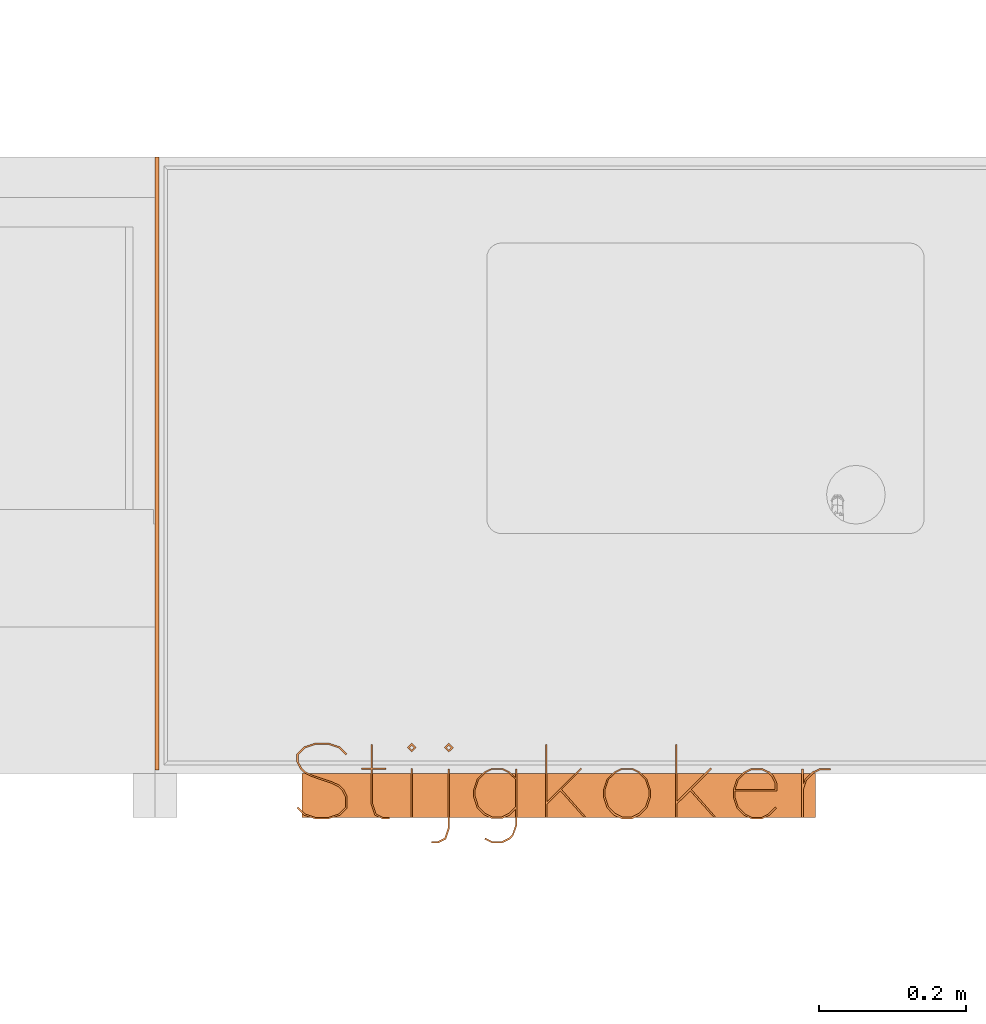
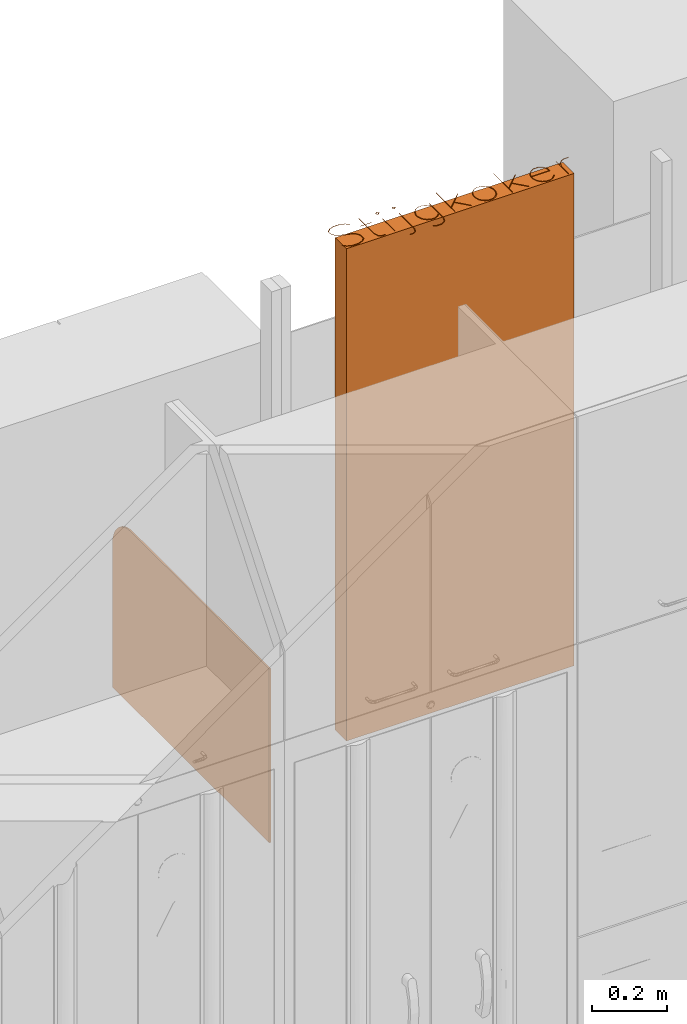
# One storey, part 8 of 32: 2 proxies.
"""IFC2X3 building model written with IfcOpenShell, lengths in metres."""

from ifc_helpers import new_model, entity, si_unit, converted_unit, derived_unit, direction, frame, frame_2d, origin, place, context, subcontext, project, spatial, polyline, circle_curve, parameter, trimmed, segment, composite_curve, outline, extrude, face_set, surface_model, source, transform, mapped, material, type_object, type_shapes, element, save


model = new_model("IFC2X3")

# Units and contexts
model_context = context("Model", 3, precision=1e-05, world=origin(), true_north=direction((6.12303176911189e-17, 1.0)))
body_context = subcontext(model_context, "Body", "Model", "MODEL_VIEW")
ifc_project = project(units=[si_unit("LENGTHUNIT", "METRE"), si_unit("AREAUNIT", "SQUARE_METRE"), si_unit("VOLUMEUNIT", "CUBIC_METRE"), converted_unit("PLANEANGLEUNIT", "DEGREE", entity("IfcRatioMeasure", 0.0174532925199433), si_unit("PLANEANGLEUNIT", "RADIAN"), dimensions=[0, 0, 0, 0, 0, 0, 0]), si_unit("MASSUNIT", "GRAM", prefix="KILO"), derived_unit("MASSDENSITYUNIT", [(si_unit("MASSUNIT", "GRAM", prefix="KILO"), 1), (si_unit("LENGTHUNIT", "METRE"), -3)]), derived_unit("MOMENTOFINERTIAUNIT", [(si_unit("LENGTHUNIT", "METRE"), 4)]), si_unit("TIMEUNIT", "SECOND"), si_unit("FREQUENCYUNIT", "HERTZ"), si_unit("THERMODYNAMICTEMPERATUREUNIT", "DEGREE_CELSIUS"), derived_unit("THERMALTRANSMITTANCEUNIT", [(si_unit("MASSUNIT", "GRAM", prefix="KILO"), 1), (si_unit("THERMODYNAMICTEMPERATUREUNIT", "KELVIN"), -1), (si_unit("TIMEUNIT", "SECOND"), -3)]), derived_unit("VOLUMETRICFLOWRATEUNIT", [(si_unit("LENGTHUNIT", "METRE"), 3), (si_unit("TIMEUNIT", "SECOND"), -1)]), si_unit("ELECTRICCURRENTUNIT", "AMPERE"), si_unit("ELECTRICVOLTAGEUNIT", "VOLT"), si_unit("POWERUNIT", "WATT"), si_unit("FORCEUNIT", "NEWTON", prefix="KILO"), si_unit("ILLUMINANCEUNIT", "LUX"), si_unit("LUMINOUSFLUXUNIT", "LUMEN"), si_unit("LUMINOUSINTENSITYUNIT", "CANDELA"), derived_unit("USERDEFINED", [(si_unit("MASSUNIT", "GRAM", prefix="KILO"), -1), (si_unit("LENGTHUNIT", "METRE"), -2), (si_unit("TIMEUNIT", "SECOND"), 3), (si_unit("LUMINOUSFLUXUNIT", "LUMEN"), 1)]), derived_unit("LINEARVELOCITYUNIT", [(si_unit("LENGTHUNIT", "METRE"), 1), (si_unit("TIMEUNIT", "SECOND"), -1)]), si_unit("PRESSUREUNIT", "PASCAL"), derived_unit("USERDEFINED", [(si_unit("LENGTHUNIT", "METRE"), -2), (si_unit("MASSUNIT", "GRAM", prefix="KILO"), 1), (si_unit("TIMEUNIT", "SECOND"), -2)]), derived_unit("LINEARFORCEUNIT", [(si_unit("MASSUNIT", "GRAM", prefix="KILO"), 1), (si_unit("LENGTHUNIT", "METRE"), 1), (si_unit("TIMEUNIT", "SECOND"), -2), (si_unit("LENGTHUNIT", "METRE"), -1)]), derived_unit("PLANARFORCEUNIT", [(si_unit("MASSUNIT", "GRAM", prefix="KILO"), 1), (si_unit("LENGTHUNIT", "METRE"), 1), (si_unit("TIMEUNIT", "SECOND"), -2), (si_unit("LENGTHUNIT", "METRE"), -2)])], contexts=[model_context])

# Site, building, storey
site_placement = place(None, origin())
site = spatial("IfcSite", under=ifc_project, at=site_placement, Name="Default", CompositionType="ELEMENT")
building_placement = place(site_placement, origin())
building = spatial("IfcBuilding", under=site, at=building_placement, CompositionType="ELEMENT")
storey_placement = place(building_placement, origin())
storey = spatial("IfcBuildingStorey", under=building, at=storey_placement, Name="00 EG", CompositionType="ELEMENT", Elevation=0.0)

# Proxies
ifc_material_1 = material(Name="dh_Glas")
building_element_proxy_type_1 = type_object("IfcBuildingElementProxyType", Name="dh_Spritzschutz:dh_Spritzschutz 90", PredefinedType="NOTDEFINED", material=ifc_material_1)
shared_shape_1 = source(origin(), body_context, "Body", "SweptSolid", [
    extrude(outline(composite_curve([segment(polyline([(-0.354000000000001, -0.318999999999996), (0.480999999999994, -0.318999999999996)]), True, "CONTINUOUS"), segment(polyline([(0.480999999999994, -0.318999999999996), (0.480999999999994, 0.246000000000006)]), True, "CONTINUOUS"), segment(polyline([(0.480999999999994, 0.246000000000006), (-0.253999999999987, 0.245999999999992)]), True, "CONTINUOUS"), segment(trimmed(circle_curve(frame_2d((-0.253999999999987, 0.145999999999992), x_axis=(1.0, 0.0)), 0.1), [parameter(90.0000000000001)], [parameter(180.0)], True, "PARAMETER"), True, "CONTINUOUS"), segment(polyline([(-0.354000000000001, 0.145999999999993), (-0.354000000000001, -0.318999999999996)]), True, "CONTINUOUS")], self_intersect=False)), frame((0.0, -0.485999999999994, 1.219), z_axis=(1.0, 0.0, 0.0), x_axis=(0.0, 1.0, 0.0)), (0.0, 0.0, 1.0), 0.00500000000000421),
])
type_shapes(building_element_proxy_type_1, [shared_shape_1])
proxy_1_placement = place(storey_placement, frame((15.2549999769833, 10.2099999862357, 0.0), z_axis=(0.0, 0.0, 1.0), x_axis=(-1.0, 0.0, 0.0)))
element("IfcBuildingElementProxy", 1, at=proxy_1_placement, inside=storey, type_object=building_element_proxy_type_1, material=ifc_material_1, Name="dh_Spritzschutz:dh_Spritzschutz 90", ObjectType="dh_Spritzschutz:dh_Spritzschutz 90", context=body_context, shape_type="MappedRepresentation", body=[
    mapped(shared_shape_1, transform((0.0, 0.0, 0.0), scale=1.0)),
])
ifc_material_2 = material(Name="dh_Stellfläche")
building_element_proxy_type_2 = type_object("IfcBuildingElementProxyType", Name="dh_Gerät_Stellfläche Bestand:Nutzergerät", PredefinedType="NOTDEFINED", material=ifc_material_2)
shared_shape_2 = source(origin(), body_context, "Body", "SurfaceModel", [
    surface_model("IfcFaceBasedSurfaceModel", [(-0.355113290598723, -0.0453817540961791, 1.605), (-0.356700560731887, -0.0470458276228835, 1.605), (-0.346946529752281, -0.0567998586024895, 1.605), (-0.332277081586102, -0.0616384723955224, 1.605), (-0.31294822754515, -0.0616384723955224, 1.605), (-0.298278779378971, -0.0567998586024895, 1.605), (-0.288166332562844, -0.0466618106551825, 1.605), (-0.288166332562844, -0.0314547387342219, 1.605), (-0.293081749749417, -0.0214446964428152, 1.605), (-0.298073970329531, -0.0163500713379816, 1.605), (-0.307904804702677, -0.0115114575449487, 1.605), (-0.336450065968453, -0.00188543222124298, 1.605), (-0.345692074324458, 0.00295318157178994, 1.605), (-0.35019787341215, 0.00745898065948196, 1.605), (-0.354857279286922, 0.0166497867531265, 1.605), (-0.354857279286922, 0.0255845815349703, 1.605), (-0.345820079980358, 0.0347241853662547, 1.605), (-0.331944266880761, 0.0393579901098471, 1.605), (-0.313204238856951, 0.0393579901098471, 1.605), (-0.299328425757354, 0.0347241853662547, 1.605), (-0.290112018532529, 0.0252005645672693, 1.605), (-0.288447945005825, 0.0268646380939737, 1.605), (-0.298278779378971, 0.0366186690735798, 1.605), (-0.31294822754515, 0.041585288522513, 1.605), (-0.332277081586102, 0.041585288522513, 1.605), (-0.346946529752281, 0.0366186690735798, 1.605), (-0.356982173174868, 0.0264550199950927, 1.605), (-0.356982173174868, 0.016112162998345, 1.605), (-0.352117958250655, 0.00610212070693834, 1.605), (-0.347074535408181, 0.00100749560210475, 1.605), (-0.337243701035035, -0.00383111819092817, 1.605), (-0.308698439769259, -0.0134571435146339, 1.605), (-0.299456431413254, -0.0182957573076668, 1.605), (-0.294950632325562, -0.0228015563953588, 1.605), (-0.29036802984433, -0.0320691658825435, 1.605), (-0.29036802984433, -0.0457657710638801, 1.605), (-0.299328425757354, -0.0549053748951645, 1.605), (-0.313204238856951, -0.0595647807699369, 1.605), (-0.331944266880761, -0.0595647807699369, 1.605), (-0.345820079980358, -0.0549053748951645, 1.605), (-0.230691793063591, -0.0616384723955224, 1.605), (-0.230691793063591, -0.0595647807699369, 1.605), (-0.239908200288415, -0.0595647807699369, 1.605), (-0.248740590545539, -0.055084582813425, 1.605), (-0.253399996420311, -0.0413879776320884, 1.605), (-0.253399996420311, 0.00533408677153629, 1.605), (-0.235402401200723, 0.00533408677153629, 1.605), (-0.235402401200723, 0.00745898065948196, 1.605), (-0.253399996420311, 0.00745898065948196, 1.605), (-0.253399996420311, 0.0399468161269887, 1.605), (-0.255576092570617, 0.0399468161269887, 1.605), (-0.255576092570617, 0.00745898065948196, 1.605), (-0.268735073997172, 0.00745898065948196, 1.605), (-0.268735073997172, 0.00533408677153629, 1.605), (-0.255576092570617, 0.00533408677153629, 1.605), (-0.255576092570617, -0.0416439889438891, 1.605), (-0.250660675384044, -0.0566974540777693, 1.605), (-0.240445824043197, -0.0616384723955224, 1.605), (-0.201327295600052, -0.0599999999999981, 1.605), (-0.199202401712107, -0.0599999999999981, 1.605), (-0.199202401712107, 0.00666534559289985, 1.605), (-0.201327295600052, 0.00666534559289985, 1.605), (-0.173294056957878, -0.0922318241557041, 1.605), (-0.173294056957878, -0.0944079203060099, 1.605), (-0.163744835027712, -0.0944079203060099, 1.605), (-0.153581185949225, -0.0893644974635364, 1.605), (-0.148665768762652, -0.0744390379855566, 1.605), (-0.148665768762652, 0.00651173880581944, 1.605), (-0.150867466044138, 0.00651173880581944, 1.605), (-0.150867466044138, -0.0741574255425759, 1.605), (-0.15550127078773, -0.087700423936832, 1.605), (-0.164333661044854, -0.0922318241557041, 1.605), (-0.100049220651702, -0.0875980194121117, 1.605), (-0.101175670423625, -0.0895181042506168, 1.605), (-0.0913448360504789, -0.0944079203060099, 1.605), (-0.0765473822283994, -0.0944079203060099, 1.605), (-0.066639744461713, -0.0895181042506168, 1.605), (-0.0615963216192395, -0.0843466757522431, 1.605), (-0.0566809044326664, -0.069728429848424, 1.605), (-0.0566809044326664, 0.00615332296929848, 1.605), (-0.0588826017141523, 0.00615332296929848, 1.605), (-0.0588826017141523, -0.00552079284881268, 1.605), (-0.066639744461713, 0.0023387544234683, 1.605), (-0.0765473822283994, 0.00717736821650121, 1.605), (-0.0913448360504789, 0.00717736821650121, 1.605), (-0.101303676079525, 0.0023387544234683, 1.605), (-0.111057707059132, -0.00756888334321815, 1.605), (-0.115973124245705, -0.0221871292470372, 1.605), (-0.115973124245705, -0.0319923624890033, 1.605), (-0.111057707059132, -0.0465850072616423, 1.605), (-0.101303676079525, -0.0564926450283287, 1.605), (-0.0913448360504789, -0.0612544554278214, 1.605), (-0.0765473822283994, -0.0612544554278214, 1.605), (-0.066639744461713, -0.0564926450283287, 1.605), (-0.0588826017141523, -0.0485818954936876, 1.605), (-0.0588826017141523, -0.0694724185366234, 1.605), (-0.0634652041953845, -0.0832970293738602, 1.605), (-0.0679710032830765, -0.0875980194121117, 1.605), (-0.0770594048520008, -0.0922318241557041, 1.605), (-0.0908072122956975, -0.0922318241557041, 1.605), (-0.0588826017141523, -0.0452537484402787, 1.605), (-0.0679710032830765, -0.0542909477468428, 1.605), (-0.0770594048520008, -0.0588735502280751, 1.605), (-0.0908072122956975, -0.0588735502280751, 1.605), (-0.0999212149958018, -0.0542909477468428, 1.605), (-0.109214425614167, -0.0451257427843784, 1.605), (-0.113797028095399, -0.0312499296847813, 1.605), (-0.113797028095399, -0.0220079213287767, 1.605), (-0.109214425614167, -0.00813210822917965, 1.605), (-0.0999212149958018, 0.000956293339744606, 1.605), (-0.0908072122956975, 0.00561569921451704, 1.605), (-0.0770594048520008, 0.00561569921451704, 1.605), (-0.0679710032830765, 0.000956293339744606, 1.605), (-0.0588826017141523, -0.00800410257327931, 1.605), (-0.0178183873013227, -0.0599999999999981, 1.605), (-0.0156934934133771, -0.0599999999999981, 1.605), (-0.0156934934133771, -0.0413367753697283, 1.605), (0.00230410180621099, -0.0235439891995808, 1.605), (0.0347919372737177, -0.0599999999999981, 1.605), (0.0364560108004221, -0.0587455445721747, 1.605), (0.0037633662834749, -0.0214958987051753, 1.605), (0.0316685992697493, 0.00625572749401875, 1.605), (0.0300813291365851, 0.00784299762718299, 1.605), (-0.0156934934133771, -0.0379574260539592, 1.605), (-0.0156934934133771, 0.0399468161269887, 1.605), (-0.0178183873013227, 0.0399468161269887, 1.605), (0.120146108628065, -0.0469178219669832, 1.605), (0.125061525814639, -0.0322227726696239, 1.605), (0.125061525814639, -0.0223663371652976, 1.605), (0.120146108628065, -0.00767128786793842, 1.605), (0.110315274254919, 0.00231315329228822, 1.605), (0.100407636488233, 0.00717736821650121, 1.605), (0.0856101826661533, 0.00717736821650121, 1.605), (0.0756513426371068, 0.00231315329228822, 1.605), (0.0658973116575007, -0.00767128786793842, 1.605), (0.0609818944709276, -0.0223663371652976, 1.605), (0.0609818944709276, -0.0322227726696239, 1.605), (0.0658973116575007, -0.0469178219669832, 1.605), (0.0756513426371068, -0.0568510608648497, 1.605), (0.0856101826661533, -0.0616384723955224, 1.605), (0.100407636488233, -0.0616384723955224, 1.605), (0.110315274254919, -0.0568510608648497, 1.605), (0.11820042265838, -0.0451257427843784, 1.605), (0.108984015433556, -0.0542909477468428, 1.605), (0.0998956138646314, -0.0588735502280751, 1.605), (0.0861478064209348, -0.0588735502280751, 1.605), (0.0770338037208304, -0.0542909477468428, 1.605), (0.0677405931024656, -0.0451257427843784, 1.605), (0.0631579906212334, -0.0312499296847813, 1.605), (0.0631579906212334, -0.0220079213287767, 1.605), (0.0677405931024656, -0.00813210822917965, 1.605), (0.0770338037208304, 0.000956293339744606, 1.605), (0.0861478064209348, 0.00561569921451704, 1.605), (0.0998956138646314, 0.00561569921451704, 1.605), (0.108984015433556, 0.000956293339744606, 1.605), (0.11820042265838, -0.00813210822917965, 1.605), (0.122859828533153, -0.0220079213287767, 1.605), (0.122859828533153, -0.0312499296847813, 1.605), (0.15913663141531, -0.0599999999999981, 1.605), (0.161261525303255, -0.0599999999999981, 1.605), (0.161261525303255, -0.0413367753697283, 1.605), (0.179259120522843, -0.0235439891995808, 1.605), (0.21174695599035, -0.0599999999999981, 1.605), (0.213411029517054, -0.0587455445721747, 1.605), (0.180718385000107, -0.0214958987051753, 1.605), (0.208623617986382, 0.00625572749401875, 1.605), (0.207036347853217, 0.00784299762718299, 1.605), (0.161261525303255, -0.0379574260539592, 1.605), (0.161261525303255, 0.0399468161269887, 1.605), (0.15913663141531, 0.0399468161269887, 1.605), (0.296973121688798, -0.0471994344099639, 1.605), (0.295309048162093, -0.0455353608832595, 1.605), (0.285939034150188, -0.0549821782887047, 1.605), (0.276850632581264, -0.0595647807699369, 1.605), (0.263102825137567, -0.0595647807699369, 1.605), (0.253988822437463, -0.0549821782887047, 1.605), (0.244695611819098, -0.0457913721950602, 1.605), (0.240113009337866, -0.0318899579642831, 1.605), (0.240113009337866, -0.0236463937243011, 1.605), (0.297229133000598, -0.0236463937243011, 1.605), (0.297229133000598, -0.0127147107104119, 1.605), (0.292313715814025, -0.00273026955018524, 1.605), (0.287270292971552, 0.00231315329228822, 1.605), (0.277362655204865, 0.00717736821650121, 1.605), (0.262565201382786, 0.00717736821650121, 1.605), (0.252606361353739, 0.00231315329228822, 1.605), (0.242852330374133, -0.00767128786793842, 1.605), (0.23793691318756, -0.0223663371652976, 1.605), (0.23793691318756, -0.0322227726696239, 1.605), (0.242852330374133, -0.0469178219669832, 1.605), (0.252606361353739, -0.0568510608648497, 1.605), (0.262565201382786, -0.0616384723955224, 1.605), (0.277362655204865, -0.0616384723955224, 1.605), (0.287270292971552, -0.0568510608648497, 1.605), (0.240522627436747, -0.0214446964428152, 1.605), (0.244695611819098, -0.00874653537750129, 1.605), (0.253988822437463, 0.000341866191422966, 1.605), (0.263102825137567, 0.0050012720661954, 1.605), (0.276850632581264, 0.0050012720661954, 1.605), (0.285939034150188, 0.000341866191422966, 1.605), (0.29044483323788, -0.00416393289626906, 1.605), (0.295027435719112, -0.0132779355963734, 1.605), (0.295027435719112, -0.0214446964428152, 1.605), (0.331176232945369, -0.0599999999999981, 1.605), (0.333301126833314, -0.0599999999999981, 1.605), (0.333301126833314, -0.0223407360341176, 1.605), (0.337960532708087, -0.00856732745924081, 1.605), (0.347202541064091, 0.000469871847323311, 1.605), (0.356342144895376, 0.00507807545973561, 1.605), (0.370371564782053, 0.00507807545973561, 1.605), (0.370371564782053, 0.00717736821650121, 1.605), (0.355753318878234, 0.00717736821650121, 1.605), (0.345871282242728, 0.00236435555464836, 1.605), (0.336040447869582, -0.00751768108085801, 1.605), (0.333301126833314, -0.0156076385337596, 1.605), (0.333301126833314, 0.00630692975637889, 1.605), (0.331176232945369, 0.00630692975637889, 1.605), (-0.149792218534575, 0.0291175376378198, 1.605), (-0.143494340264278, 0.0353386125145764, 1.605), (-0.149792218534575, 0.041585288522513, 1.605), (-0.156038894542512, 0.0353386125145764, 1.605), (-0.149792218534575, 0.0319592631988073, 1.605), (-0.153043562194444, 0.035210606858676, 1.605), (-0.149792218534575, 0.0384875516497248, 1.605), (-0.146464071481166, 0.035210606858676, 1.605), (-0.20025204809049, 0.0291175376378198, 1.605), (-0.194005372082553, 0.0353386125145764, 1.605), (-0.20025204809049, 0.041585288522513, 1.605), (-0.206498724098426, 0.0353386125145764, 1.605), (-0.20025204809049, 0.0319592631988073, 1.605), (-0.203503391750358, 0.035210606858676, 1.605), (-0.20025204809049, 0.0384875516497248, 1.605), (-0.197000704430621, 0.035210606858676, 1.605), (0.35, 0.0, 1.6), (0.35, -0.06, 1.6), (-0.35, -0.06, 1.6), (-0.35, 0.0, 1.6), (0.35, 0.0, 0.0), (0.35, -0.06, 0.0), (-0.35, -0.06, 0.0), (-0.35, 0.0, 0.0)], [face_set([[[0, 1, 2, 3, 4, 5, 6, 7, 8, 9, 10, 11, 12, 13, 14, 15, 16, 17, 18, 19, 20, 21, 22, 23, 24, 25, 26, 27, 28, 29, 30, 31, 32, 33, 34, 35, 36, 37, 38, 39]]]), face_set([[[40, 41, 42, 43, 44, 45, 46, 47, 48, 49, 50, 51, 52, 53, 54, 55, 56, 57]]]), face_set([[[58, 59, 60, 61]]]), face_set([[[62, 63, 64, 65, 66, 67, 68, 69, 70, 71]]]), face_set([[[72, 73, 74, 75, 76, 77, 78, 79, 80, 81, 82, 83, 84, 85, 86, 87, 88, 89, 90, 91, 92, 93, 94, 95, 96, 97, 98, 99], [100, 101, 102, 103, 104, 105, 106, 107, 108, 109, 110, 111, 112, 113]]]), face_set([[[114, 115, 116, 117, 118, 119, 120, 121, 122, 123, 124, 125]]]), face_set([[[126, 127, 128, 129, 130, 131, 132, 133, 134, 135, 136, 137, 138, 139, 140, 141], [142, 143, 144, 145, 146, 147, 148, 149, 150, 151, 152, 153, 154, 155, 156, 157]]]), face_set([[[158, 159, 160, 161, 162, 163, 164, 165, 166, 167, 168, 169]]]), face_set([[[170, 171, 172, 173, 174, 175, 176, 177, 178, 179, 180, 181, 182, 183, 184, 185, 186, 187, 188, 189, 190, 191, 192, 193], [194, 195, 196, 197, 198, 199, 200, 201, 202]]]), face_set([[[203, 204, 205, 206, 207, 208, 209, 210, 211, 212, 213, 214, 215, 216]]]), face_set([[[217, 218, 219, 220], [221, 222, 223, 224]]]), face_set([[[225, 226, 227, 228], [229, 230, 231, 232]]]), face_set([[[233, 234, 235, 236]], [[237, 238, 239, 240]], [[236, 233, 237, 240]], [[235, 236, 240, 239]], [[234, 238, 239, 235]], [[233, 234, 238, 237]]])]),
])
type_shapes(building_element_proxy_type_2, [shared_shape_2])
proxy_2_placement = place(storey_placement, frame((15.7999999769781, 10.21, 1.2)))
element("IfcBuildingElementProxy", 2, at=proxy_2_placement, inside=storey, type_object=building_element_proxy_type_2, material=ifc_material_2, Name="dh_Gerät_Stellfläche Bestand:Nutzergerät", ObjectType="dh_Gerät_Stellfläche Bestand:Nutzergerät", context=body_context, shape_type="MappedRepresentation", body=[
    mapped(shared_shape_2, transform((0.0, 0.0, 0.0), scale=1.0)),
])

save(model, "model.ifc")
